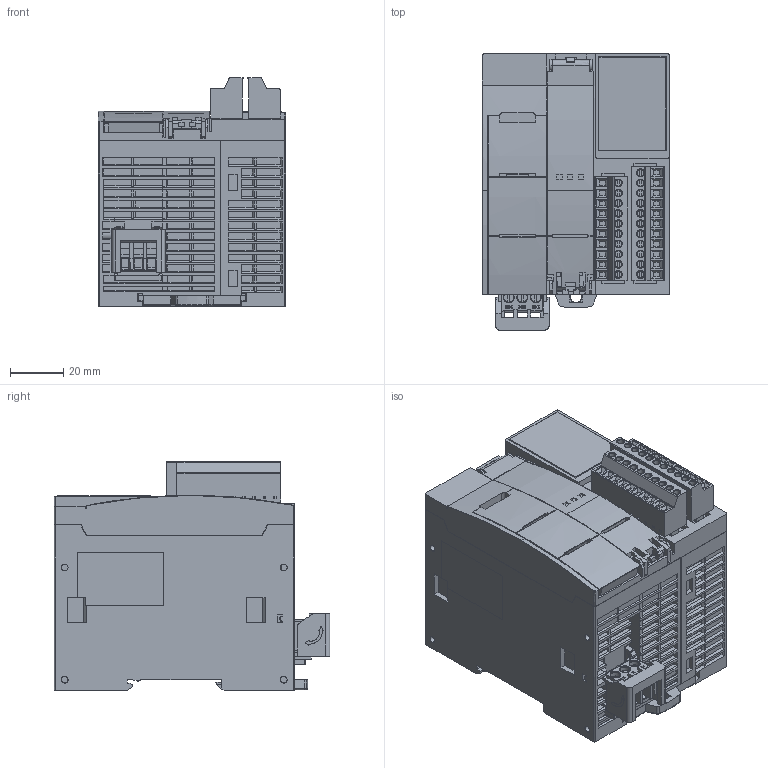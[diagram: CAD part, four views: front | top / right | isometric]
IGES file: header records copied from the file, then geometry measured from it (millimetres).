
Start section: SolidWorks IGES file using analytic representation for surfaces
Global section: file name: \\s-w08-ifile002\003_技術管理室\_3D外形図中間ファイル[受渡し用]\OUTSIDE-FC6A-D16#1CEE.IGS; native system: SolidWorks 2014; preprocessor: SolidWorks 2014; author: 1002813; date: 170630.114005; units: millimetre
Bounding box: 70 x 103.3 x 85.65 mm (x, y, z)
Surface area: 82430.4 mm2 (no closed solid volume)
Topology: 0 solids, 0 shells, 3662 faces, 25165 edges, 25130 vertices
Faces by surface type: bspline 3123, revolution 539
